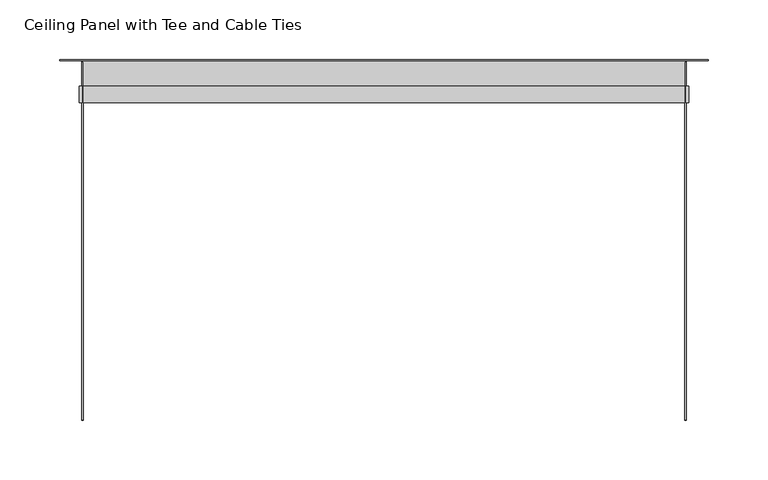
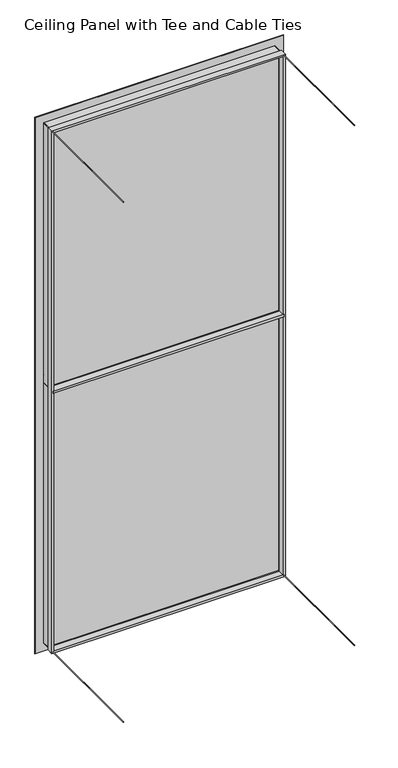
"""IFC4 building model written with IfcOpenShell, lengths in millimetres: plate geometry, Ceiling Panel with Tee and Cable Ties : Ceiling Panel (Vinyl) with Tee and Cable Ties Edge 2."""

from ifc_helpers import new_model, si_unit, point, frame, frame_2d, origin, origin_with_axes, place, context, project, spatial, polyline, circle_curve, trimmed, segment, composite_curve, outline, extrude, faceted_brep, source, transform, mapped, element, save


def ceiling_panel_with_tee_and_cable_ties_bb24702a(model_context):
    return source(origin(), model_context, "Body", "SolidModel", [
        extrude(outline(composite_curve([segment(trimmed(circle_curve(frame_2d((1200.0, 252.4999998)), 0.5), [point((1200.0, 252.9999998))], [point((1200.0, 251.9999998))], False, "CARTESIAN"), True, "CONTINUOUS"), segment(trimmed(circle_curve(frame_2d((1200.0, 252.4999998)), 0.5), [point((1200.0, 251.9999998))], [point((1200.0, 252.9999998))], False, "CARTESIAN"), True, "CONTINUOUS")], self_intersect=False)), frame((0.0, -300.0, 0.0), z_axis=(0.0, 1.0, 0.0), x_axis=(0.0, 0.0, 1.0)), (0.0, 0.0, 1.0), 300.0),
        extrude(outline(composite_curve([segment(trimmed(circle_curve(frame_2d((1200.0, -252.4999998)), 0.5), [point((1200.0, -251.9999998))], [point((1200.0, -252.9999998))], False, "CARTESIAN"), True, "CONTINUOUS"), segment(trimmed(circle_curve(frame_2d((1200.0, -252.4999998)), 0.5), [point((1200.0, -252.9999998))], [point((1200.0, -251.9999998))], False, "CARTESIAN"), True, "CONTINUOUS")], self_intersect=False)), frame((0.0, -300.0, 0.0), z_axis=(0.0, 1.0, 0.0), x_axis=(0.0, 0.0, 1.0)), (0.0, 0.0, 1.0), 300.0),
        extrude(outline(composite_curve([segment(trimmed(circle_curve(frame_2d((0.0, 252.4999998)), 0.5), [point((0.0, 252.9999998))], [point((0.0, 251.9999998))], False, "CARTESIAN"), True, "CONTINUOUS"), segment(trimmed(circle_curve(frame_2d((0.0, 252.4999998)), 0.5), [point((0.0, 251.9999998))], [point((0.0, 252.9999998))], False, "CARTESIAN"), True, "CONTINUOUS")], self_intersect=False)), frame((0.0, -300.0, 0.0), z_axis=(0.0, 1.0, 0.0), x_axis=(0.0, 0.0, 1.0)), (0.0, 0.0, 1.0), 300.0),
        extrude(outline(composite_curve([segment(trimmed(circle_curve(frame_2d((0.0, -252.4999998)), 0.5), [point((0.0, -251.9999998))], [point((0.0, -252.9999998))], False, "CARTESIAN"), True, "CONTINUOUS"), segment(trimmed(circle_curve(frame_2d((0.0, -252.4999998)), 0.5), [point((0.0, -252.9999998))], [point((0.0, -251.9999998))], False, "CARTESIAN"), True, "CONTINUOUS")], self_intersect=False)), frame((0.0, -300.0, 0.0), z_axis=(0.0, 1.0, 0.0), x_axis=(0.0, 0.0, 1.0)), (0.0, 0.0, 1.0), 300.0),
        extrude(outline(polyline([(2.0, 619.0), (2.0, 581.0), (1.0, 581.0), (1.0, 599.5), (-20.0, 599.5), (-20.0, 597.5), (-34.0, 597.5), (-34.0, 602.5), (-20.0, 602.5), (-20.0, 600.5), (1.0, 600.5), (1.0, 619.0), (2.0, 619.0)])), frame((-252.4999998, 0.0, 0.0), z_axis=(1.0, 0.0, 0.0), x_axis=(0.0, 1.0, 0.0)), (0.0, 0.0, 1.0), 504.9999997),
        faceted_brep([(233.4999998, 1.0, 1181.0), (233.4999998, 2.0, 1181.0), (233.4999998, 2.0, 19.0), (233.4999998, 1.0, 19.0), (251.9999998, -20.0, 1199.5), (251.9999998, 1.0, 1199.5), (251.9999998, 1.0, 0.5), (251.9999998, -20.0, 0.5), (249.9999998, -34.0, 1197.5), (249.9999998, -20.0, 1197.5), (249.9999998, -20.0, 2.5), (249.9999998, -34.0, 2.5), (254.9999998, -20.0, 1202.5), (254.9999998, -34.0, 1202.5), (254.9999998, -34.0, -2.5), (254.9999998, -20.0, -2.5), (252.9999998, 1.0, 1200.5), (252.9999998, -20.0, 1200.5), (252.9999998, -20.0, -0.5), (252.9999998, 1.0, -0.5), (271.4999998, 2.0, 1219.0), (271.4999998, 1.0, 1219.0), (271.4999998, 1.0, -19.0), (271.4999998, 2.0, -19.0), (-233.4999998, 2.0, 19.0), (-233.4999998, 1.0, 19.0), (-251.9999998, 1.0, 0.5), (-251.9999998, -20.0, 0.5), (-249.9999998, -20.0, 2.5), (-249.9999998, -34.0, 2.5), (-254.9999998, -34.0, -2.5), (-254.9999998, -20.0, -2.5), (-252.9999998, -20.0, -0.5), (-252.9999998, 1.0, -0.5), (-271.4999998, 1.0, -19.0), (-271.4999998, 2.0, -19.0), (-233.4999998, 2.0, 1181.0), (-233.4999998, 1.0, 1181.0), (-251.9999998, 1.0, 1199.5), (-251.9999998, -20.0, 1199.5), (-249.9999998, -20.0, 1197.5), (-249.9999998, -34.0, 1197.5), (-254.9999998, -34.0, 1202.5), (-254.9999998, -20.0, 1202.5), (-252.9999998, -20.0, 1200.5), (-252.9999998, 1.0, 1200.5), (-271.4999998, 1.0, 1219.0), (-271.4999998, 2.0, 1219.0)], [[[0, 1, 2, 3]], [[4, 5, 6, 7]], [[8, 9, 10, 11]], [[12, 13, 14, 15]], [[16, 17, 18, 19]], [[20, 21, 22, 23]], [[3, 2, 24, 25]], [[7, 6, 26, 27]], [[11, 10, 28, 29]], [[15, 14, 30, 31]], [[19, 18, 32, 33]], [[23, 22, 34, 35]], [[25, 24, 36, 37]], [[27, 26, 38, 39]], [[29, 28, 40, 41]], [[31, 30, 42, 43]], [[33, 32, 44, 45]], [[35, 34, 46, 47]], [[23, 35, 47, 20], [1, 36, 24, 2]], [[37, 36, 1, 0]], [[5, 38, 26, 6], [3, 25, 37, 0]], [[39, 38, 5, 4]], [[7, 27, 39, 4], [9, 40, 28, 10]], [[41, 40, 9, 8]], [[13, 42, 30, 14], [11, 29, 41, 8]], [[43, 42, 13, 12]], [[15, 31, 43, 12], [17, 44, 32, 18]], [[45, 44, 17, 16]], [[21, 46, 34, 22], [19, 33, 45, 16]], [[47, 46, 21, 20]]]),
        extrude(outline(polyline([(252.4999998, -15.0), (-252.4999998, -15.0), (-252.4999998, 0.0), (252.4999998, 0.0), (252.4999998, -15.0)])), origin_with_axes(), (0.0, 0.0, 1.0), 1200.0),
    ])


if __name__ == "__main__":
    model = new_model("IFC4")
    model_context = context("Model", 3, world=origin())
    ifc_project = project(units=[si_unit("LENGTHUNIT", "METRE", prefix="MILLI")], contexts=[model_context])
    site = spatial("IfcSite", under=ifc_project)
    building = spatial("IfcBuilding", under=site)
    placement = place(None, origin())
    ceiling_panel_with_tee_and_cable_ties_shape = ceiling_panel_with_tee_and_cable_ties_bb24702a(model_context)
    element("IfcPlate", 1, ObjectType="Ceiling Panel with Tee and Cable Ties : Ceiling Panel (Vinyl) with Tee and Cable Ties Edge 2", at=placement, inside=building, context=model_context, shape_type="MappedRepresentation", body=[
        mapped(ceiling_panel_with_tee_and_cable_ties_shape, transform((0.0, 0.0, 0.0), x_axis=(1.0, 0.0, 0.0), y_axis=(0.0, 1.0, 0.0), z_axis=(0.0, 0.0, 1.0))),
    ])
    save(model, "model.ifc")
